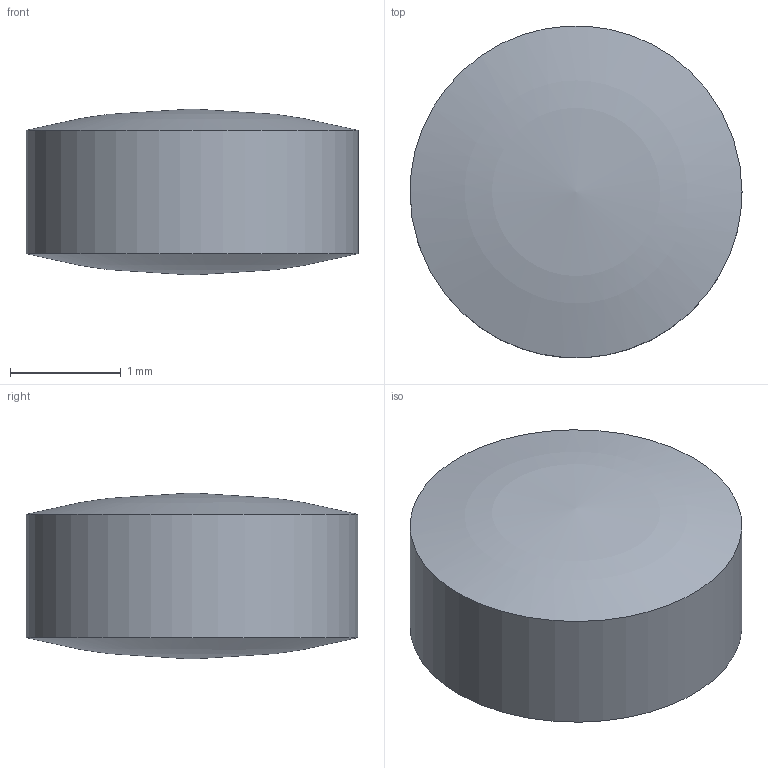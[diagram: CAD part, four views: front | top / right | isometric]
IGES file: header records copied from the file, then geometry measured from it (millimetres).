
Global section: file name: SLM-03B-06P; native system: Autodesk Inventor 2015; preprocessor: unknown; author: r.sato; date: 20161219.192531; units: millimetre
Bounding box: 3 x 3 x 1.5 mm (x, y, z)
Volume: 9.2 mm3; surface area: 24.9 mm2
Topology: 1 solids, 1 shells, 3 faces, 5 edges, 4 vertices
Faces by surface type: bspline 3
